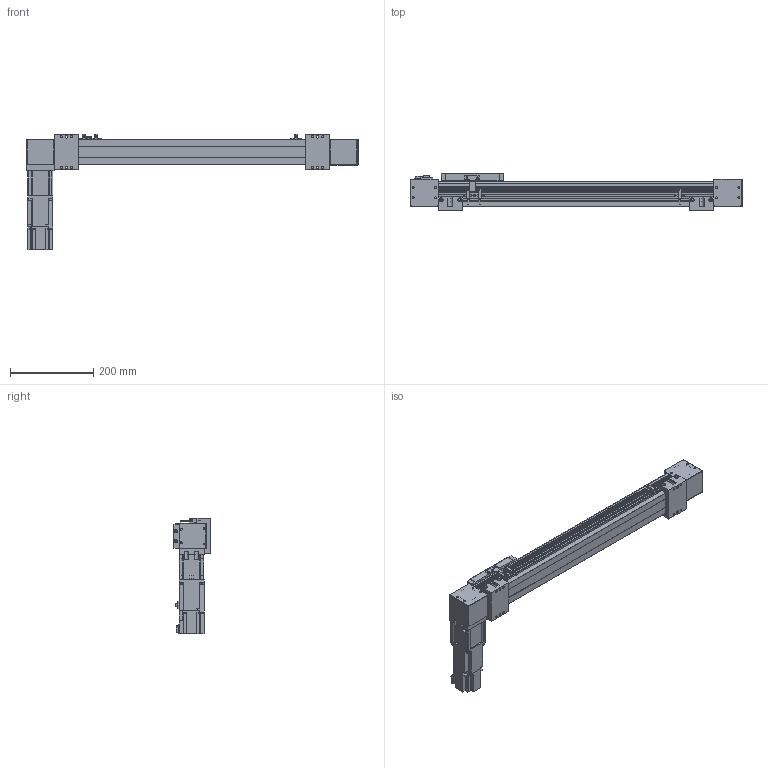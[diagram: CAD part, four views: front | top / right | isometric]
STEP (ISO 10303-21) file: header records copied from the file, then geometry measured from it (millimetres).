
FILE_DESCRIPTION(/* description */ ('STEP AP203'),/* implementation_level */ '2;1');
FILE_NAME(/* name */ 'SK60-P13-S500-BR-T40-C1-N(0)',/* time_stamp */ '2023-04-06T03:59:10+02:00',/* author */ ('License CC BY-ND 4.0'),/* organization */ ('CADENAS'),/* preprocessor_version */ 'ST-DEVELOPER v19.3',/* originating_system */ 'PARTsolutions',/* authorisation */ ' ');
FILE_SCHEMA (('CONFIG_CONTROL_DESIGN'));
Length unit declared in the file: millimetre
Products named in the file (11): SK60-P13-S500-BR-T40-C1-N(0); PSC140-sensor; SK60-S450_seat; SK60-S450-BL-C1_slider; SK60_body3; SK60_body6; SK60-BL_body2; T40-p1; SK60_body5; SK60_body4; SK60-S500-BR-C1_body
Assembly tree (17 placements, depth 2):
  SK60-P13-S500-BR-T40-C1-N(0)
    PSC140-sensor  x3
    SK60-S450_seat  x2
    SK60-S450-BL-C1_slider
    SK60_body3  x3
    SK60_body6  x2
    SK60-BL_body2  x2
    T40-p1
    SK60_body5
    SK60_body4
    SK60-S500-BR-C1_body
Bounding box: 800 x 90 x 279.1 mm (x, y, z)
Volume: 3359682.5 mm3; surface area: 501874.9 mm2
Topology: 17 solids, 21 shells, 834 faces, 2109 edges, 1394 vertices
Faces by surface type: plane 544, cylinder 266, cone 22, torus 2
Full cylindrical faces by diameter (mm): 2.8 x3, 3.3 x4, 4.2 x8, 4.5 x26, 4.6 x3, 4.917 x16, 5 x2, 5.478 x4, 5.5 x19, 6.5 x4, 8 x4, 8.5 x4, 9.988 x4, 10 x8, 13.556 x1, 14 x1, 14.586 x1, 19.692 x1, 38.432 x2, 43 x1, 44 x3, 47 x2, 50 x2
Entity records: 19371 total; most frequent: DIRECTION 3292, CARTESIAN_POINT 3289, ORIENTED_EDGE 3050, EDGE_CURVE 1525, AXIS2_PLACEMENT_3D 1100, LINE 1092, VECTOR 1092, VERTEX_POINT 1077
